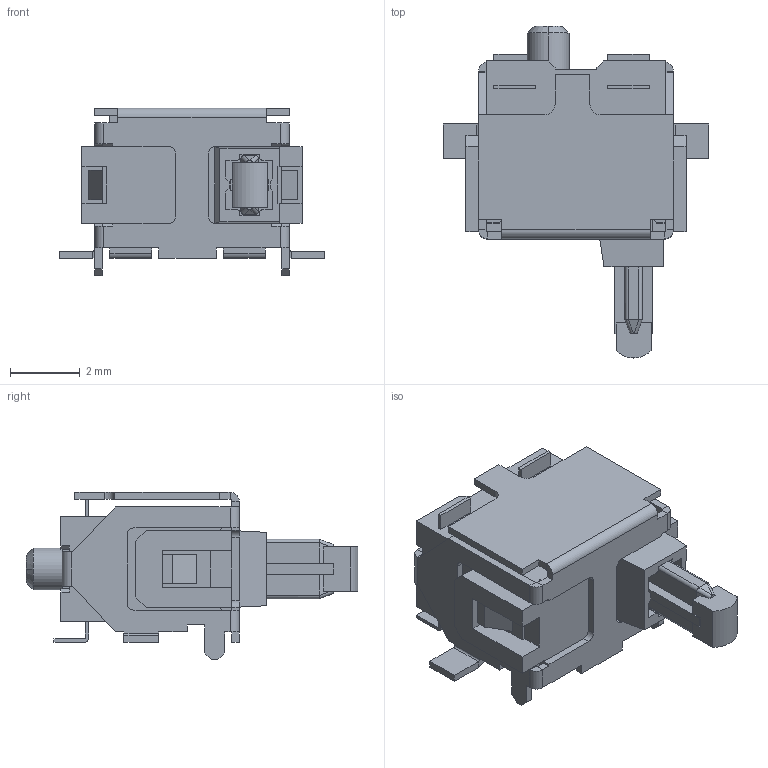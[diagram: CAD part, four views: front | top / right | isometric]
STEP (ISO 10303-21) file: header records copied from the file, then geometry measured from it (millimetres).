
FILE_DESCRIPTION (( 'STEP AP214' ), '1' );
FILE_NAME ('SPPB630101.STEP', '2011-04-21T01:10:43', ( '' ), ( '' ), 'SwSTEP 2.0', 'SolidWorks 2007', '' );
FILE_SCHEMA (( 'AUTOMOTIVE_DESIGN' ));
Length unit declared in the file: millimetre
Products named in the file (1): SPPB630101
Bounding box: 7.6 x 9.5 x 4.8 mm (x, y, z)
Volume: 95 mm3; surface area: 293.5 mm2
Topology: 1 solids, 1 shells, 363 faces, 1000 edges, 638 vertices
Faces by surface type: plane 302, cylinder 58, cone 3
Entity records: 13797 total; most frequent: CARTESIAN_POINT 2062, ORIENTED_EDGE 2000, DIRECTION 1816, EDGE_CURVE 1000, VECTOR 872, LINE 872, VERTEX_POINT 638, AXIS2_PLACEMENT_3D 472
